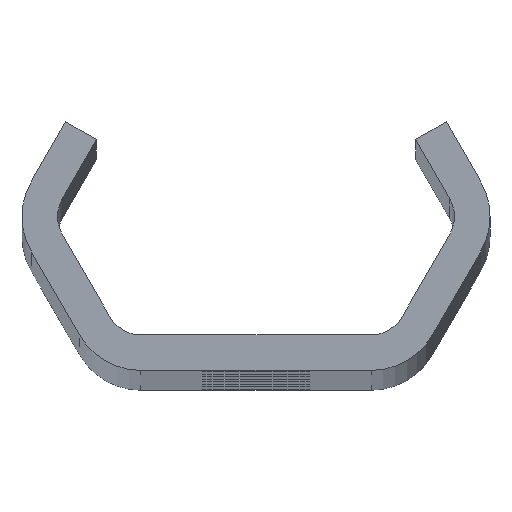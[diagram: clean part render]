
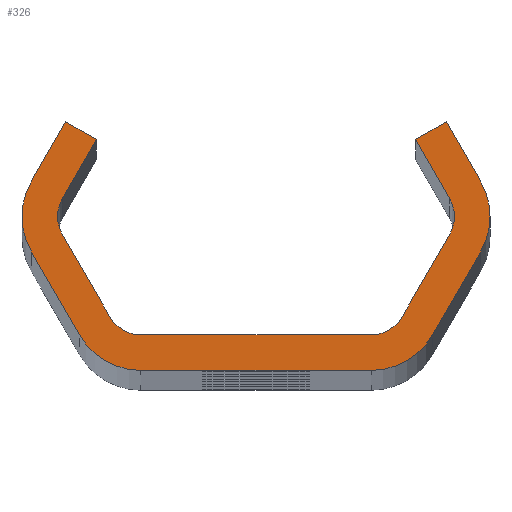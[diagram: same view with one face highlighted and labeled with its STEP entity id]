
A CAD part, top view. The second image highlights one B-rep face of the part: STEP entity #326.
In plain terms, the highlighted planar face has unit normal (0, 0, 1).
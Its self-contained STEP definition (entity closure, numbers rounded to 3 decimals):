
#326=ADVANCED_FACE('NONE',(#868),#869,.F.);
#868=FACE_OUTER_BOUND('',#2628,.T.);
#869=PLANE('',#2629);
#2628=EDGE_LOOP('',(#5260,#5261,#5262,#5263,#5264,#5265,#5266,#5267,#5268,#5269,#5270,#5271,#5272,#5273,#5274,#5275,#5276,#5277,#5278,#5279,#5280,#5281,#5282,#5283));
#2629=AXIS2_PLACEMENT_3D('',#5284,#5285,#5286);
#5260=ORIENTED_EDGE('',*,*,#7053,.T.);
#5261=ORIENTED_EDGE('',*,*,#7076,.T.);
#5262=ORIENTED_EDGE('',*,*,#6884,.T.);
#5263=ORIENTED_EDGE('',*,*,#7055,.T.);
#5264=ORIENTED_EDGE('',*,*,#7077,.T.);
#5265=ORIENTED_EDGE('',*,*,#7059,.T.);
#5266=ORIENTED_EDGE('',*,*,#7078,.T.);
#5267=ORIENTED_EDGE('',*,*,#6891,.T.);
#5268=ORIENTED_EDGE('',*,*,#7079,.T.);
#5269=ORIENTED_EDGE('',*,*,#6757,.T.);
#5270=ORIENTED_EDGE('',*,*,#6894,.T.);
#5271=ORIENTED_EDGE('',*,*,#6900,.T.);
#5272=ORIENTED_EDGE('',*,*,#6903,.T.);
#5273=ORIENTED_EDGE('',*,*,#6881,.T.);
#5274=ORIENTED_EDGE('',*,*,#7080,.T.);
#5275=ORIENTED_EDGE('',*,*,#6905,.T.);
#5276=ORIENTED_EDGE('',*,*,#7081,.T.);
#5277=ORIENTED_EDGE('',*,*,#6912,.T.);
#5278=ORIENTED_EDGE('',*,*,#7082,.T.);
#5279=ORIENTED_EDGE('',*,*,#7040,.T.);
#5280=ORIENTED_EDGE('',*,*,#7083,.T.);
#5281=ORIENTED_EDGE('',*,*,#6752,.T.);
#5282=ORIENTED_EDGE('',*,*,#7043,.T.);
#5283=ORIENTED_EDGE('',*,*,#7049,.T.);
#5284=CARTESIAN_POINT('',(0.0,0.0,960.0));
#5285=DIRECTION('',(0.0,0.0,-1.0));
#5286=DIRECTION('',(0.0,-1.0,0.0));
#6752=EDGE_CURVE('NONE',#7548,#7552,#7554,.T.);
#6757=EDGE_CURVE('NONE',#7557,#7561,#7563,.T.);
#6881=EDGE_CURVE('NONE',#7786,#7784,#7787,.T.);
#6884=EDGE_CURVE('NONE',#7790,#7791,#7792,.T.);
#6891=EDGE_CURVE('NONE',#7804,#7802,#7805,.T.);
#6894=EDGE_CURVE('NONE',#7561,#7808,#7809,.T.);
#6900=EDGE_CURVE('NONE',#7808,#7816,#7818,.T.);
#6903=EDGE_CURVE('NONE',#7816,#7786,#7821,.T.);
#6905=EDGE_CURVE('NONE',#7823,#7824,#7825,.T.);
#6912=EDGE_CURVE('NONE',#7837,#7835,#7838,.T.);
#7040=EDGE_CURVE('NONE',#8074,#8072,#8075,.T.);
#7043=EDGE_CURVE('NONE',#7552,#8078,#8079,.T.);
#7049=EDGE_CURVE('NONE',#8078,#8086,#8088,.T.);
#7053=EDGE_CURVE('NONE',#8086,#8092,#8094,.T.);
#7055=EDGE_CURVE('NONE',#7791,#8096,#8097,.T.);
#7059=EDGE_CURVE('NONE',#8102,#8103,#8104,.T.);
#7076=EDGE_CURVE('NONE',#8092,#7790,#8123,.T.);
#7077=EDGE_CURVE('NONE',#8096,#8102,#8124,.T.);
#7078=EDGE_CURVE('NONE',#8103,#7804,#8125,.T.);
#7079=EDGE_CURVE('NONE',#7802,#7557,#8126,.T.);
#7080=EDGE_CURVE('NONE',#7784,#7823,#8127,.T.);
#7081=EDGE_CURVE('NONE',#7824,#7837,#8128,.T.);
#7082=EDGE_CURVE('NONE',#7835,#8074,#8129,.T.);
#7083=EDGE_CURVE('NONE',#8072,#7548,#8130,.T.);
#7548=VERTEX_POINT('',#8730);
#7552=VERTEX_POINT('NONE',#8735);
#7554=CIRCLE('',#8738,3.0);
#7557=VERTEX_POINT('',#8741);
#7561=VERTEX_POINT('NONE',#8746);
#7563=CIRCLE('',#8749,6.0);
#7784=VERTEX_POINT('NONE',#10044);
#7786=VERTEX_POINT('NONE',#10047);
#7787=CIRCLE('',#10048,3.0);
#7790=VERTEX_POINT('NONE',#10052);
#7791=VERTEX_POINT('NONE',#10053);
#7792=CIRCLE('',#10054,6.0);
#7802=VERTEX_POINT('NONE',#10067);
#7804=VERTEX_POINT('NONE',#10070);
#7805=LINE('',#10071,#10072);
#7808=VERTEX_POINT('NONE',#10076);
#7809=LINE('',#10077,#10078);
#7816=VERTEX_POINT('NONE',#10088);
#7818=LINE('',#10091,#10092);
#7821=LINE('',#10096,#10097);
#7823=VERTEX_POINT('NONE',#10099);
#7824=VERTEX_POINT('NONE',#10100);
#7825=LINE('',#10101,#10102);
#7835=VERTEX_POINT('NONE',#10116);
#7837=VERTEX_POINT('NONE',#10119);
#7838=LINE('',#10120,#10121);
#8072=VERTEX_POINT('NONE',#10957);
#8074=VERTEX_POINT('NONE',#10960);
#8075=LINE('',#10961,#10962);
#8078=VERTEX_POINT('NONE',#10966);
#8079=LINE('',#10967,#10968);
#8086=VERTEX_POINT('NONE',#10978);
#8088=LINE('',#10981,#10982);
#8092=VERTEX_POINT('NONE',#10987);
#8094=LINE('',#10990,#10991);
#8096=VERTEX_POINT('NONE',#10993);
#8097=LINE('',#10994,#10995);
#8102=VERTEX_POINT('NONE',#11002);
#8103=VERTEX_POINT('NONE',#11003);
#8104=LINE('',#11004,#11005);
#8123=CIRCLE('',#11027,6.0);
#8124=CIRCLE('',#11028,6.0);
#8125=CIRCLE('',#11029,6.0);
#8126=CIRCLE('',#11030,6.0);
#8127=CIRCLE('',#11031,3.0);
#8128=CIRCLE('',#11032,3.0);
#8129=CIRCLE('',#11033,3.0);
#8130=CIRCLE('',#11034,3.0);
#8730=CARTESIAN_POINT('',(-16.764,0.,960.0));
#8735=CARTESIAN_POINT('',(-16.362,1.5,960.0));
#8738=AXIS2_PLACEMENT_3D('',#12987,#12988,#12989);
#8741=CARTESIAN_POINT('',(19.764,0.,960.0));
#8746=CARTESIAN_POINT('',(18.96,3.,960.0));
#8749=AXIS2_PLACEMENT_3D('',#12995,#12996,#12997);
#10044=CARTESIAN_POINT('',(16.764,0.,960.0));
#10047=CARTESIAN_POINT('',(16.362,1.5,960.0));
#10048=AXIS2_PLACEMENT_3D('',#13122,#13123,#13124);
#10052=CARTESIAN_POINT('',(-19.764,0.,960.0));
#10053=CARTESIAN_POINT('',(-18.96,-3.,960.0));
#10054=AXIS2_PLACEMENT_3D('',#13126,#13127,#13128);
#10067=CARTESIAN_POINT('',(18.96,-3.,960.0));
#10070=CARTESIAN_POINT('',(14.919,-10.,960.0));
#10071=CARTESIAN_POINT('',(20.692,0.,960.0));
#10072=VECTOR('',#13136,1000.0);
#10076=CARTESIAN_POINT('',(16.074,8.,960.0));
#10077=CARTESIAN_POINT('',(16.074,8.,960.0));
#10078=VECTOR('',#13138,1000.0);
#10088=CARTESIAN_POINT('',(13.475,6.5,960.0));
#10091=CARTESIAN_POINT('',(13.475,6.5,960.0));
#10092=VECTOR('',#13143,1000.0);
#10096=CARTESIAN_POINT('',(17.228,0.,960.0));
#10097=VECTOR('',#13145,1000.0);
#10099=CARTESIAN_POINT('',(16.362,-1.5,960.0));
#10100=CARTESIAN_POINT('',(12.321,-8.5,960.0));
#10101=CARTESIAN_POINT('',(11.455,-10.0,960.0));
#10102=VECTOR('',#13146,1000.0);
#10116=CARTESIAN_POINT('',(-9.723,-10.0,960.0));
#10119=CARTESIAN_POINT('',(9.723,-10.0,960.0));
#10120=CARTESIAN_POINT('',(-11.455,-10.0,960.0));
#10121=VECTOR('',#13152,1000.0);
#10957=CARTESIAN_POINT('',(-16.362,-1.5,960.0));
#10960=CARTESIAN_POINT('',(-12.321,-8.5,960.0));
#10961=CARTESIAN_POINT('',(-17.228,0.,960.0));
#10962=VECTOR('',#13291,1000.0);
#10966=CARTESIAN_POINT('',(-13.475,6.5,960.0));
#10967=CARTESIAN_POINT('',(-13.475,6.5,960.0));
#10968=VECTOR('',#13293,1000.0);
#10978=CARTESIAN_POINT('',(-16.074,8.,960.0));
#10981=CARTESIAN_POINT('',(-13.475,6.5,960.0));
#10982=VECTOR('',#13298,1000.0);
#10987=CARTESIAN_POINT('',(-18.96,3.,960.0));
#10990=CARTESIAN_POINT('',(-16.074,8.,960.0));
#10991=VECTOR('',#13301,1000.0);
#10993=CARTESIAN_POINT('',(-14.919,-10.,960.0));
#10994=CARTESIAN_POINT('',(-20.692,0.,960.0));
#10995=VECTOR('',#13302,1000.0);
#11002=CARTESIAN_POINT('',(-9.723,-13.0,960.0));
#11003=CARTESIAN_POINT('',(9.723,-13.0,960.0));
#11004=CARTESIAN_POINT('',(-13.187,-13.0,960.0));
#11005=VECTOR('',#13305,1000.0);
#11027=AXIS2_PLACEMENT_3D('',#13345,#13346,#13347);
#11028=AXIS2_PLACEMENT_3D('',#13348,#13349,#13350);
#11029=AXIS2_PLACEMENT_3D('',#13351,#13352,#13353);
#11030=AXIS2_PLACEMENT_3D('',#13354,#13355,#13356);
#11031=AXIS2_PLACEMENT_3D('',#13357,#13358,#13359);
#11032=AXIS2_PLACEMENT_3D('',#13360,#13361,#13362);
#11033=AXIS2_PLACEMENT_3D('',#13363,#13364,#13365);
#11034=AXIS2_PLACEMENT_3D('',#13366,#13367,#13368);
#12987=CARTESIAN_POINT('',(-13.764,0.,960.0));
#12988=DIRECTION('',(0.0,0.0,-1.0));
#12989=DIRECTION('',(-1.0,0.0,0.0));
#12995=CARTESIAN_POINT('',(13.764,0.,960.0));
#12996=DIRECTION('',(0.0,0.0,1.0));
#12997=DIRECTION('',(-1.0,0.0,0.0));
#13122=CARTESIAN_POINT('',(13.764,0.,960.0));
#13123=DIRECTION('',(0.0,0.0,-1.0));
#13124=DIRECTION('',(-1.0,0.0,0.0));
#13126=CARTESIAN_POINT('',(-13.764,0.,960.0));
#13127=DIRECTION('',(0.0,0.0,1.0));
#13128=DIRECTION('',(-1.0,0.0,0.0));
#13136=DIRECTION('',(0.5,0.866,-0.0));
#13138=DIRECTION('',(-0.5,0.866,-0.0));
#13143=DIRECTION('',(-0.866,-0.5,-0.0));
#13145=DIRECTION('',(0.5,-0.866,-0.0));
#13146=DIRECTION('',(-0.5,-0.866,-0.0));
#13152=DIRECTION('',(-1.0,0.,-0.0));
#13291=DIRECTION('',(-0.5,0.866,-0.0));
#13293=DIRECTION('',(0.5,0.866,-0.0));
#13298=DIRECTION('',(-0.866,0.5,0.0));
#13301=DIRECTION('',(-0.5,-0.866,0.0));
#13302=DIRECTION('',(0.5,-0.866,0.0));
#13305=DIRECTION('',(1.0,0.0,0.0));
#13345=CARTESIAN_POINT('',(-13.764,0.,960.0));
#13346=DIRECTION('',(0.0,0.0,1.0));
#13347=DIRECTION('',(-1.0,0.0,0.0));
#13348=CARTESIAN_POINT('',(-9.723,-7.0,960.0));
#13349=DIRECTION('',(0.0,0.0,1.0));
#13350=DIRECTION('',(-1.0,0.0,0.0));
#13351=CARTESIAN_POINT('',(9.723,-7.0,960.0));
#13352=DIRECTION('',(0.0,0.0,1.0));
#13353=DIRECTION('',(-1.0,0.,0.0));
#13354=CARTESIAN_POINT('',(13.764,0.,960.0));
#13355=DIRECTION('',(0.0,0.0,1.0));
#13356=DIRECTION('',(-1.0,0.0,0.0));
#13357=CARTESIAN_POINT('',(13.764,0.,960.0));
#13358=DIRECTION('',(0.0,0.0,-1.0));
#13359=DIRECTION('',(-1.0,0.0,0.0));
#13360=CARTESIAN_POINT('',(9.723,-7.0,960.0));
#13361=DIRECTION('',(0.0,0.0,-1.0));
#13362=DIRECTION('',(-1.0,0.0,0.0));
#13363=CARTESIAN_POINT('',(-9.723,-7.0,960.0));
#13364=DIRECTION('',(0.0,0.0,-1.0));
#13365=DIRECTION('',(-1.0,0.0,0.0));
#13366=CARTESIAN_POINT('',(-13.764,0.,960.0));
#13367=DIRECTION('',(0.0,0.0,-1.0));
#13368=DIRECTION('',(-1.0,0.0,0.0));
